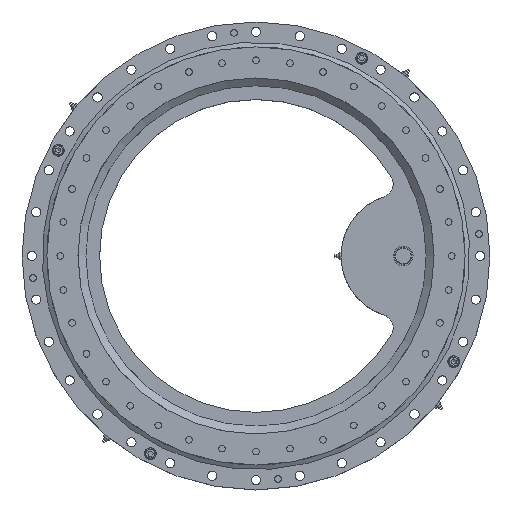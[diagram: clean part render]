
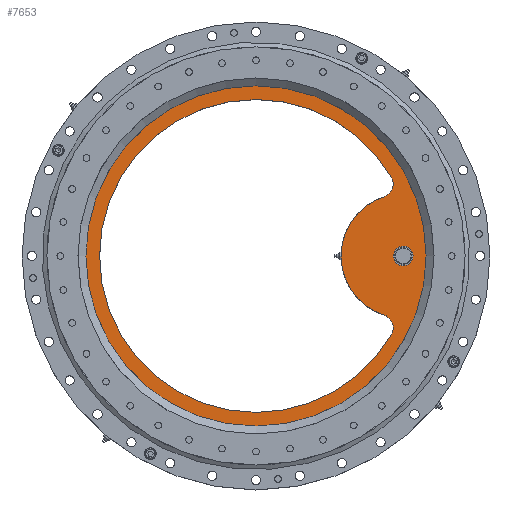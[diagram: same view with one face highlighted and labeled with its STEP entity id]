
A CAD part, top view. The second image highlights one B-rep face of the part: STEP entity #7653.
In plain terms, the highlighted planar face has unit normal (0, 0, 1).
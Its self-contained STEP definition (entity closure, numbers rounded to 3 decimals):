
#72=PLANE('',#8230);
#318=FACE_BOUND('',#1079,.T.);
#319=FACE_BOUND('',#1080,.T.);
#633=FACE_OUTER_BOUND('',#1078,.T.);
#1078=EDGE_LOOP('',(#5520));
#1079=EDGE_LOOP('',(#5521));
#1080=EDGE_LOOP('',(#5522,#5523,#5524,#5525));
#2576=CIRCLE('',#8076,239.);
#2580=CIRCLE('',#8081,95.);
#2680=CIRCLE('',#8224,20.);
#2683=CIRCLE('',#8229,20.);
#2684=CIRCLE('',#8231,261.);
#2685=CIRCLE('',#8232,13.);
#3181=VERTEX_POINT('',#11455);
#3182=VERTEX_POINT('',#11456);
#3189=VERTEX_POINT('',#11471);
#3190=VERTEX_POINT('',#11473);
#3291=VERTEX_POINT('',#11944);
#3292=VERTEX_POINT('',#11946);
#4047=EDGE_CURVE('',#3181,#3182,#2576,.T.);
#4055=EDGE_CURVE('',#3189,#3190,#2580,.T.);
#4198=EDGE_CURVE('',#3181,#3190,#2680,.T.);
#4201=EDGE_CURVE('',#3189,#3182,#2683,.T.);
#4202=EDGE_CURVE('',#3291,#3291,#2684,.T.);
#4203=EDGE_CURVE('',#3292,#3292,#2685,.T.);
#5520=ORIENTED_EDGE('',*,*,#4202,.T.);
#5521=ORIENTED_EDGE('',*,*,#4203,.T.);
#5522=ORIENTED_EDGE('',*,*,#4047,.F.);
#5523=ORIENTED_EDGE('',*,*,#4198,.T.);
#5524=ORIENTED_EDGE('',*,*,#4055,.F.);
#5525=ORIENTED_EDGE('',*,*,#4201,.T.);
#7653=ADVANCED_FACE('',(#633,#318,#319),#72,.T.);
#8076=AXIS2_PLACEMENT_3D('',#11457,#9037,#9038);
#8081=AXIS2_PLACEMENT_3D('',#11474,#9051,#9052);
#8224=AXIS2_PLACEMENT_3D('',#11937,#9378,#9379);
#8229=AXIS2_PLACEMENT_3D('',#11942,#9388,#9389);
#8230=AXIS2_PLACEMENT_3D('',#11943,#9390,#9391);
#8231=AXIS2_PLACEMENT_3D('',#11945,#9392,#9393);
#8232=AXIS2_PLACEMENT_3D('',#11947,#9394,#9395);
#9037=DIRECTION('center_axis',(0.,0.,1.));
#9038=DIRECTION('ref_axis',(1.,0.,0.));
#9051=DIRECTION('center_axis',(0.,0.,-1.));
#9052=DIRECTION('ref_axis',(1.,0.,0.));
#9378=DIRECTION('center_axis',(0.,0.,-1.));
#9379=DIRECTION('ref_axis',(1.,0.,0.));
#9388=DIRECTION('center_axis',(0.,0.,-1.));
#9389=DIRECTION('ref_axis',(1.,0.,0.));
#9390=DIRECTION('center_axis',(0.,0.,1.));
#9391=DIRECTION('ref_axis',(1.,0.,0.));
#9392=DIRECTION('center_axis',(0.,0.,1.));
#9393=DIRECTION('ref_axis',(1.,0.,0.));
#9394=DIRECTION('center_axis',(0.,0.,-1.));
#9395=DIRECTION('ref_axis',(-1.,0.,0.));
#11455=CARTESIAN_POINT('',(232.447,121.117,469.578));
#11456=CARTESIAN_POINT('',(232.447,-117.763,469.578));
#11457=CARTESIAN_POINT('Origin',(25.433,1.677,469.578));
#11471=CARTESIAN_POINT('',(221.265,-88.734,469.578));
#11473=CARTESIAN_POINT('',(221.265,92.088,469.578));
#11474=CARTESIAN_POINT('Origin',(250.433,1.677,469.578));
#11937=CARTESIAN_POINT('Origin',(215.124,111.122,469.578));
#11942=CARTESIAN_POINT('Origin',(215.124,-107.768,469.578));
#11943=CARTESIAN_POINT('Origin',(25.433,1.677,469.578));
#11944=CARTESIAN_POINT('',(-235.567,1.677,469.578));
#11945=CARTESIAN_POINT('Origin',(25.433,1.677,469.578));
#11946=CARTESIAN_POINT('',(263.433,1.677,469.578));
#11947=CARTESIAN_POINT('Origin',(250.433,1.677,469.578));
